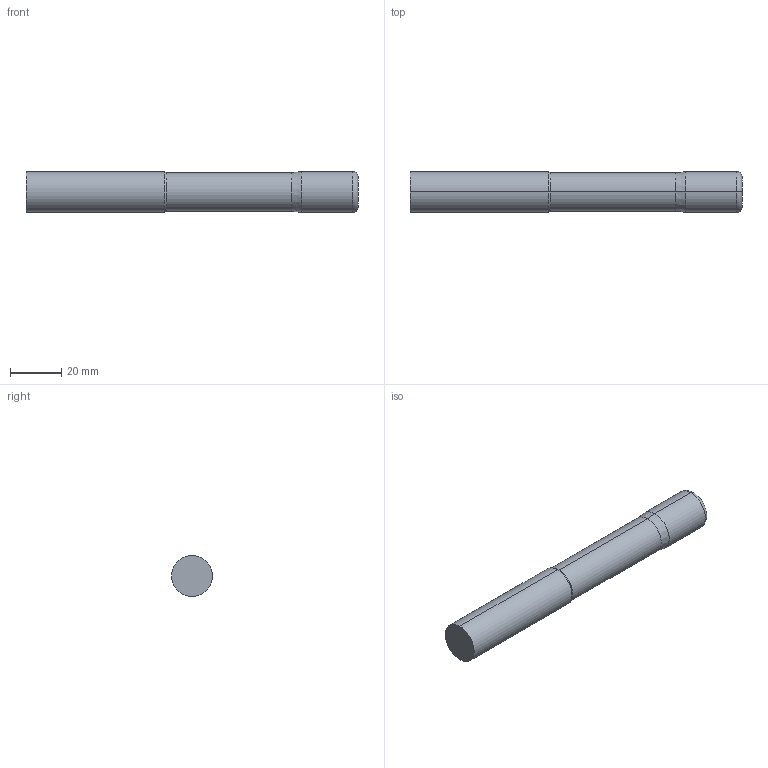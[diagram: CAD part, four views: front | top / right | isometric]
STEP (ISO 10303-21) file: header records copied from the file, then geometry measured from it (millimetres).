
FILE_DESCRIPTION (( 'STEP AP214' ), '1' );
FILE_NAME ('SSIRNM516M-2.STEP', '2025-05-29T19:16:31', ( '' ), ( '' ), 'SwSTEP 2.0', 'SolidWorks 2023', '' );
FILE_SCHEMA (( 'AUTOMOTIVE_DESIGN' ));
Length unit declared in the file: millimetre
Products named in the file (3): SSI5 Metric CUTTING_SSIRNM516M-2; SSI5 Metric SHANK_SSIRNM516M-2; SSIRNM516M-2
Assembly tree (2 placements, depth 2):
  SSIRNM516M-2
    SSI5 Metric CUTTING_SSIRNM516M-2
    SSI5 Metric SHANK_SSIRNM516M-2
Bounding box: 130 x 16 x 16 mm (x, y, z)
Volume: 24880.6 mm3; surface area: 7144.8 mm2
Topology: 2 solids, 2 shells, 16 faces, 28 edges, 16 vertices
Faces by surface type: cylinder 6, plane 4, cone 4, torus 2
Entity records: 474 total; most frequent: DIRECTION 88, CARTESIAN_POINT 65, ORIENTED_EDGE 56, AXIS2_PLACEMENT_3D 39, EDGE_CURVE 28, CIRCLE 18, EDGE_LOOP 16, ADVANCED_FACE 16
